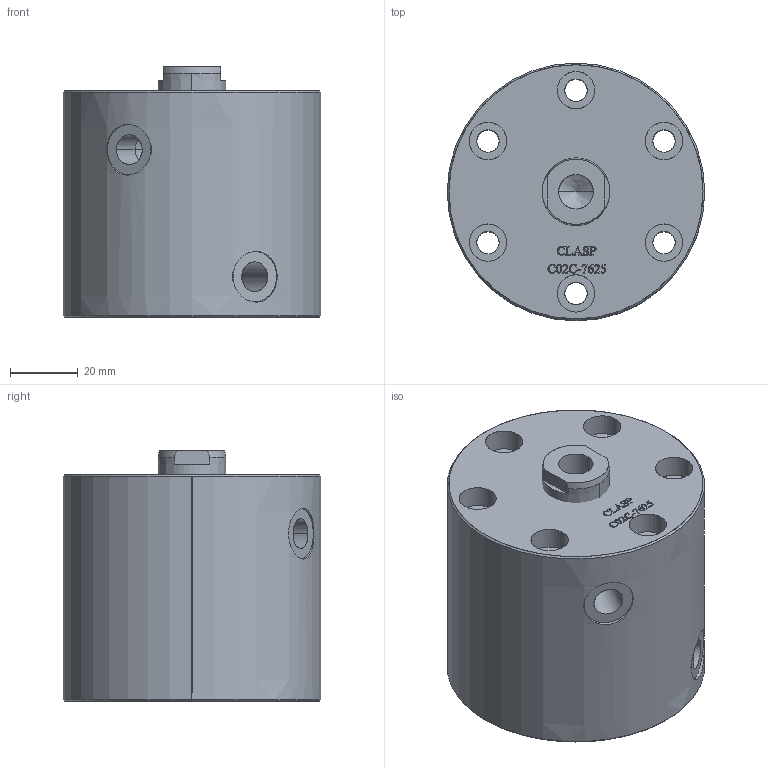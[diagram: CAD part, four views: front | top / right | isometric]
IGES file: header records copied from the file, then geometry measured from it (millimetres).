
Start section: SolidWorks IGES file using analytic representation for surfaces
Global section: file name: D:\karuppas\Clasp\3D model\COMPACT CYLINDER\C02C-7625\C02C-7625.IGS; native system: SolidWorks 2017; preprocessor: SolidWorks 2017; author: pc; date: 220709.232117; units: millimetre
Bounding box: 76 x 76 x 74 mm (x, y, z)
Surface area: 40091.9 mm2 (no closed solid volume)
Topology: 0 solids, 0 shells, 317 faces, 4783 edges, 4777 vertices
Faces by surface type: bspline 264, revolution 53
